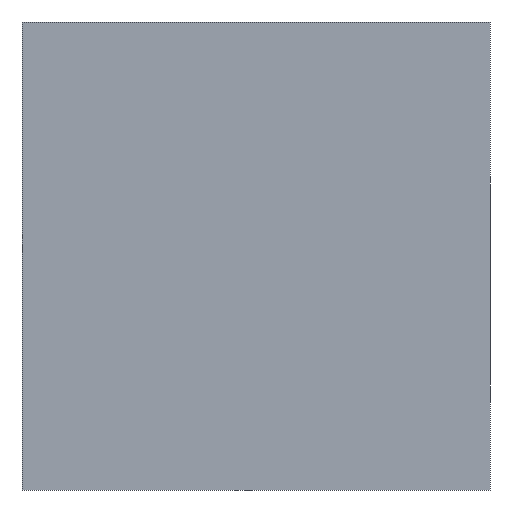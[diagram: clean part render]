
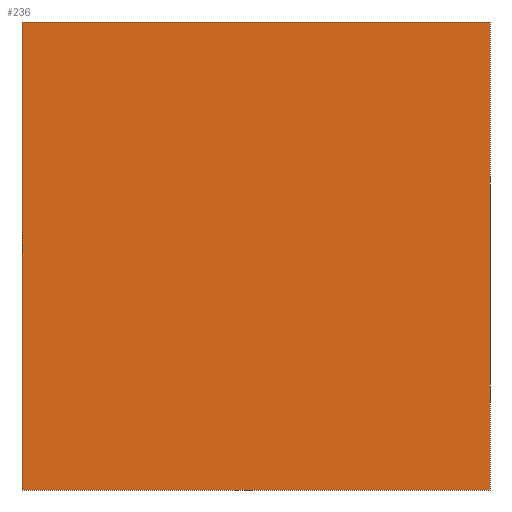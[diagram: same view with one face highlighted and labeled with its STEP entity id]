
A CAD part, front view. The second image highlights one B-rep face of the part: STEP entity #236.
In plain terms, the highlighted planar face has unit normal (0, -1, 0).
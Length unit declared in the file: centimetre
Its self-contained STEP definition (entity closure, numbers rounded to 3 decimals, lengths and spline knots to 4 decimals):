
#8 = DIRECTION ( 'NONE',  ( 0., 0., -1. ) ) ;
#9 = LINE ( 'NONE', #302, #362 ) ;
#10 = VECTOR ( 'NONE', #359, 100. ) ;
#11 = DIRECTION ( 'NONE',  ( 0., 0., 1. ) ) ;
#30 = ORIENTED_EDGE ( 'NONE', *, *, #274, .T. ) ;
#38 = CARTESIAN_POINT ( 'NONE',  ( 0., 0., 1000. ) ) ;
#39 = CARTESIAN_POINT ( 'NONE',  ( 0., 0., 0. ) ) ;
#44 = AXIS2_PLACEMENT_3D ( 'NONE', #285, #167, #11 ) ;
#51 = DIRECTION ( 'NONE',  ( 1., 0., 0. ) ) ;
#74 = VECTOR ( 'NONE', #271, 100. ) ;
#80 = ORIENTED_EDGE ( 'NONE', *, *, #342, .F. ) ;
#91 = CARTESIAN_POINT ( 'NONE',  ( 1000., 0., 0. ) ) ;
#143 = LINE ( 'NONE', #301, #74 ) ;
#161 = PLANE ( 'NONE',  #44 ) ;
#163 = CARTESIAN_POINT ( 'NONE',  ( 1000., 0., 1000. ) ) ;
#167 = DIRECTION ( 'NONE',  ( 0., 1., 0. ) ) ;
#190 = LINE ( 'NONE', #196, #331 ) ;
#194 = ORIENTED_EDGE ( 'NONE', *, *, #211, .F. ) ;
#196 = CARTESIAN_POINT ( 'NONE',  ( 0., 0., 1000. ) ) ;
#198 = CARTESIAN_POINT ( 'NONE',  ( 1000., 0., 1000. ) ) ;
#211 = EDGE_CURVE ( 'NONE', #315, #381, #190, .T. ) ;
#231 = EDGE_LOOP ( 'NONE', ( #241, #80, #194, #30 ) ) ;
#233 = LINE ( 'NONE', #198, #10 ) ;
#236 = ADVANCED_FACE ( 'NONE', ( #314 ), #161, .F. ) ;
#241 = ORIENTED_EDGE ( 'NONE', *, *, #311, .T. ) ;
#260 = VERTEX_POINT ( 'NONE', #91 ) ;
#271 = DIRECTION ( 'NONE',  ( 1., 0., 0. ) ) ;
#274 = EDGE_CURVE ( 'NONE', #315, #328, #9, .T. ) ;
#285 = CARTESIAN_POINT ( 'NONE',  ( 0., 0., 1000. ) ) ;
#301 = CARTESIAN_POINT ( 'NONE',  ( 0., 0., 0. ) ) ;
#302 = CARTESIAN_POINT ( 'NONE',  ( 0., 0., 1000. ) ) ;
#311 = EDGE_CURVE ( 'NONE', #328, #260, #143, .T. ) ;
#314 = FACE_OUTER_BOUND ( 'NONE', #231, .T. ) ;
#315 = VERTEX_POINT ( 'NONE', #38 ) ;
#328 = VERTEX_POINT ( 'NONE', #39 ) ;
#331 = VECTOR ( 'NONE', #51, 100. ) ;
#342 = EDGE_CURVE ( 'NONE', #381, #260, #233, .T. ) ;
#359 = DIRECTION ( 'NONE',  ( 0., 0., -1. ) ) ;
#362 = VECTOR ( 'NONE', #8, 100. ) ;
#381 = VERTEX_POINT ( 'NONE', #163 ) ;
